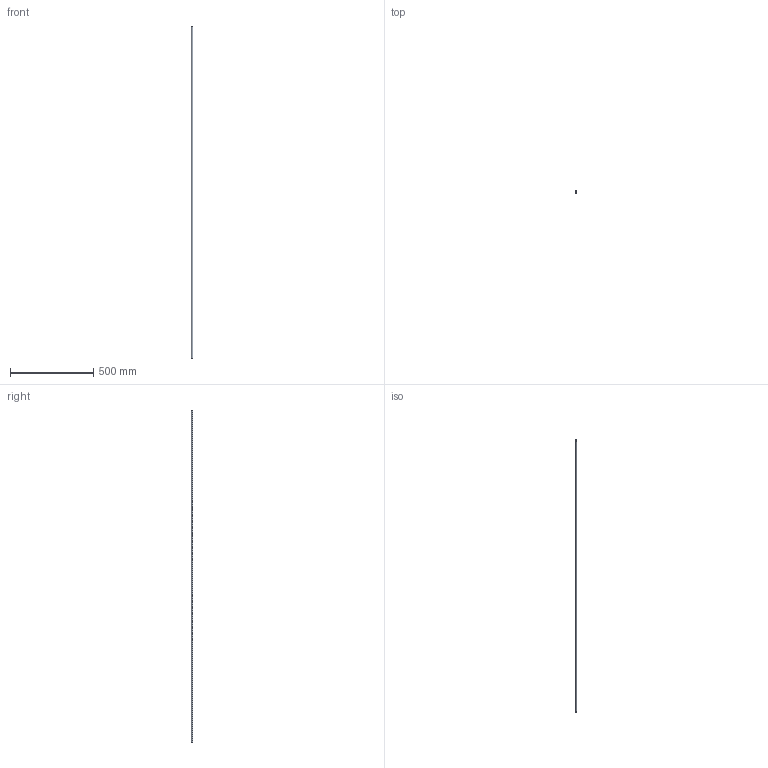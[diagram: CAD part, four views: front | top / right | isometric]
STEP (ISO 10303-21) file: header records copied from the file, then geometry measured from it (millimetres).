
FILE_DESCRIPTION (( 'STEP AP214' ), '1' );
FILE_NAME ('PCT12-2000.STEP', '2022-12-13T01:23:09', ( '' ), ( '' ), 'SwSTEP 2.0', 'SolidWorks 2018', '' );
FILE_SCHEMA (( 'AUTOMOTIVE_DESIGN' ));
Length unit declared in the file: millimetre
Products named in the file (1): PCT12-2000
Bounding box: 12 x 12 x 2000 mm (x, y, z)
Volume: 69115 mm3; surface area: 138299.2 mm2
Topology: 1 solids, 1 shells, 6 faces, 12 edges, 8 vertices
Faces by surface type: cylinder 4, plane 2
Entity records: 202 total; most frequent: DIRECTION 34, CARTESIAN_POINT 27, ORIENTED_EDGE 24, AXIS2_PLACEMENT_3D 15, EDGE_CURVE 12, VERTEX_POINT 8, EDGE_LOOP 8, CIRCLE 8
